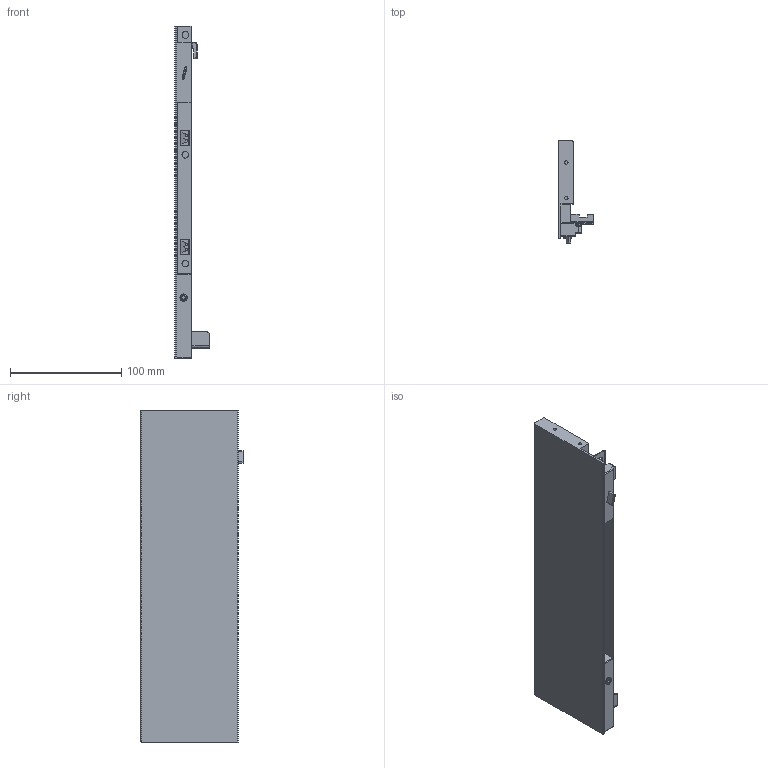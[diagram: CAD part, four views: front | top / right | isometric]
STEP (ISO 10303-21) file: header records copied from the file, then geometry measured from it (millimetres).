
FILE_DESCRIPTION (( 'STEP AP203' ), '1' );
FILE_NAME ('HT113001-L.STEP', '2022-06-28T08:35:12', ( 'Users' ), ( 'Microsoft' ), 'SwSTEP 2.0', 'SolidWorks 2018', '' );
FILE_SCHEMA (( 'CONFIG_CONTROL_DESIGN' ));
Length unit declared in the file: millimetre
Products named in the file (1): HT113001-L
Bounding box: 31.3 x 93 x 299 mm (x, y, z)
Volume: 263865.1 mm3; surface area: 76185.2 mm2
Topology: 1 solids, 8 shells, 367 faces, 924 edges, 573 vertices
Faces by surface type: plane 174, cylinder 129, torus 29, bspline 23, cone 6, sphere 6
Entity records: 11463 total; most frequent: CARTESIAN_POINT 2726, ORIENTED_EDGE 1830, DIRECTION 1776, EDGE_CURVE 915, AXIS2_PLACEMENT_3D 607, VERTEX_POINT 573, VECTOR 562, LINE 562
